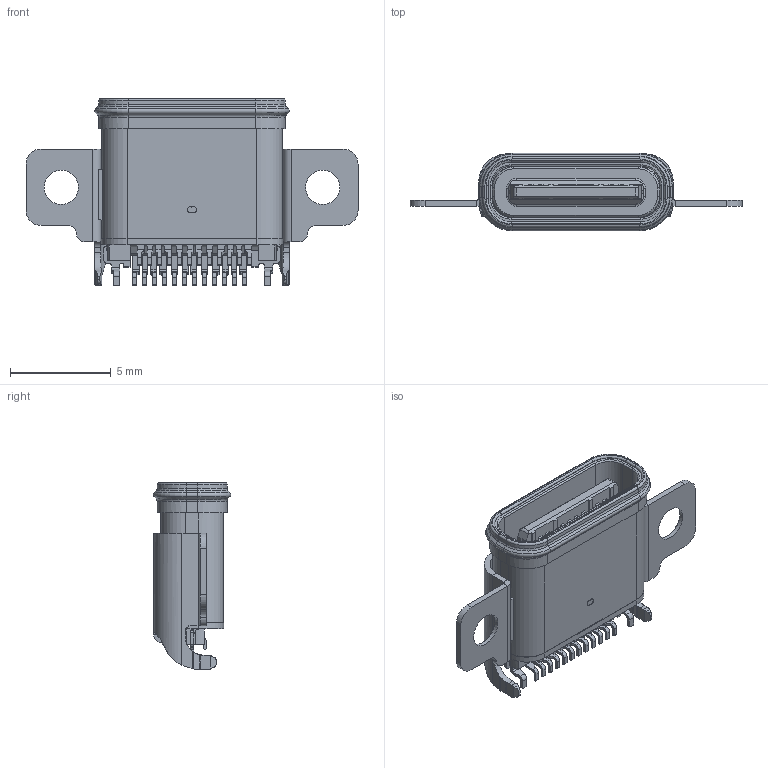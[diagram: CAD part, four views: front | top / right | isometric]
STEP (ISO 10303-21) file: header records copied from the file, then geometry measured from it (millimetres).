
FILE_DESCRIPTION (( 'STEP AP214' ), '1' );
FILE_NAME ('U5297-24PNM0.88C9.27LF.STEP', '2026-05-28T07:44:04', ( '' ), ( '' ), 'SwSTEP 2.0', 'SolidWorks 2024', '' );
FILE_SCHEMA (( 'AUTOMOTIVE_DESIGN' ));
Length unit declared in the file: millimetre
Products named in the file (1): U5297-24PNM0.88C9.27LF
Bounding box: 16.5 x 3.85 x 9.27 mm (x, y, z)
Volume: 159.8 mm3; surface area: 692.1 mm2
Topology: 5 solids, 5 shells, 1313 faces, 3623 edges, 2350 vertices
Faces by surface type: plane 850, cylinder 352, bspline 61, torus 24, cone 18, sphere 8
Entity records: 44870 total; most frequent: CARTESIAN_POINT 11565, ORIENTED_EDGE 7246, DIRECTION 6505, EDGE_CURVE 3623, LINE 2637, VECTOR 2637, VERTEX_POINT 2350, AXIS2_PLACEMENT_3D 1934
